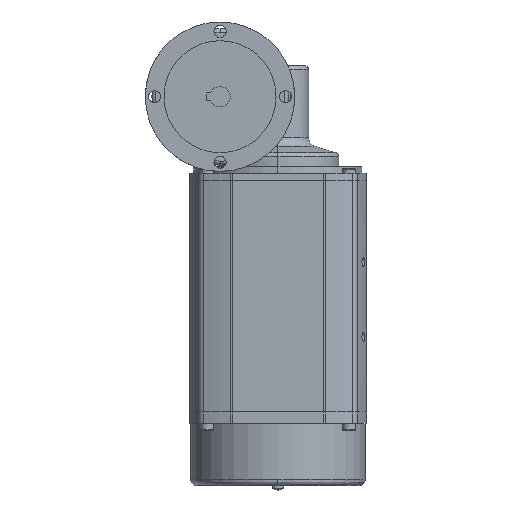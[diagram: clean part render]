
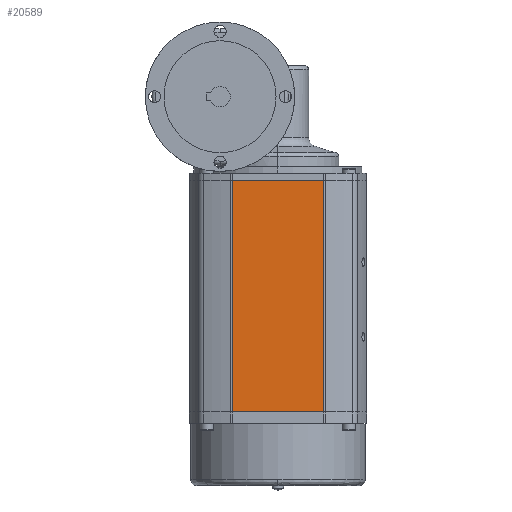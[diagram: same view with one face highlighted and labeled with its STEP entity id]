
A CAD part, left-side view. The second image highlights one B-rep face of the part: STEP entity #20589.
In plain terms, the highlighted planar face has unit normal (-1, 0, 0).
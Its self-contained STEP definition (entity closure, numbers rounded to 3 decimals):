
#100 = LINE ( 'NONE', #16902, #31053 ) ;
#1809 = VERTEX_POINT ( 'NONE', #27199 ) ;
#3155 = PLANE ( 'NONE',  #11685 ) ;
#3508 = DIRECTION ( 'NONE',  ( 0., 1., 0. ) ) ;
#3793 = CARTESIAN_POINT ( 'NONE',  ( 111.2, 433., -102.89 ) ) ;
#7288 = ORIENTED_EDGE ( 'NONE', *, *, #29020, .T. ) ;
#8453 = LINE ( 'NONE', #3793, #19847 ) ;
#10566 = DIRECTION ( 'NONE',  ( 0., -1., 0. ) ) ;
#11081 = VECTOR ( 'NONE', #12075, 1000. ) ;
#11120 = DIRECTION ( 'NONE',  ( 0., 1., 0. ) ) ;
#11497 = ORIENTED_EDGE ( 'NONE', *, *, #26443, .T. ) ;
#11685 = AXIS2_PLACEMENT_3D ( 'NONE', #29996, #25207, #10566 ) ;
#12075 = DIRECTION ( 'NONE',  ( 0., 0., 1. ) ) ;
#12246 = VERTEX_POINT ( 'NONE', #21935 ) ;
#13020 = ORIENTED_EDGE ( 'NONE', *, *, #20171, .F. ) ;
#16902 = CARTESIAN_POINT ( 'NONE',  ( 111.2, 457.409, 20.91 ) ) ;
#17670 = VERTEX_POINT ( 'NONE', #27751 ) ;
#18342 = VECTOR ( 'NONE', #3508, 1000. ) ;
#18661 = FACE_OUTER_BOUND ( 'NONE', #30681, .T. ) ;
#19332 = DIRECTION ( 'NONE',  ( 0., 0., -1. ) ) ;
#19847 = VECTOR ( 'NONE', #11120, 1000. ) ;
#20171 = EDGE_CURVE ( 'NONE', #17670, #1809, #8453, .T. ) ;
#20589 = ADVANCED_FACE ( 'NONE', ( #18661 ), #3155, .T. ) ;
#21935 = CARTESIAN_POINT ( 'NONE',  ( 111.2, 457.409, 20.91 ) ) ;
#24955 = LINE ( 'NONE', #25459, #18342 ) ;
#25207 = DIRECTION ( 'NONE',  ( -1., 0., 0. ) ) ;
#25459 = CARTESIAN_POINT ( 'NONE',  ( 111.2, 433., 20.91 ) ) ;
#25920 = VERTEX_POINT ( 'NONE', #26831 ) ;
#26443 = EDGE_CURVE ( 'NONE', #12246, #1809, #100, .T. ) ;
#26817 = EDGE_CURVE ( 'NONE', #25920, #12246, #24955, .T. ) ;
#26831 = CARTESIAN_POINT ( 'NONE',  ( 111.2, 408.591, 20.91 ) ) ;
#27199 = CARTESIAN_POINT ( 'NONE',  ( 111.2, 457.409, -102.89 ) ) ;
#27751 = CARTESIAN_POINT ( 'NONE',  ( 111.2, 408.591, -102.89 ) ) ;
#28690 = ORIENTED_EDGE ( 'NONE', *, *, #26817, .T. ) ;
#29020 = EDGE_CURVE ( 'NONE', #17670, #25920, #31320, .T. ) ;
#29148 = CARTESIAN_POINT ( 'NONE',  ( 111.2, 408.591, 20.91 ) ) ;
#29996 = CARTESIAN_POINT ( 'NONE',  ( 111.2, 433., 20.91 ) ) ;
#30681 = EDGE_LOOP ( 'NONE', ( #28690, #11497, #13020, #7288 ) ) ;
#31053 = VECTOR ( 'NONE', #19332, 1000. ) ;
#31320 = LINE ( 'NONE', #29148, #11081 ) ;
